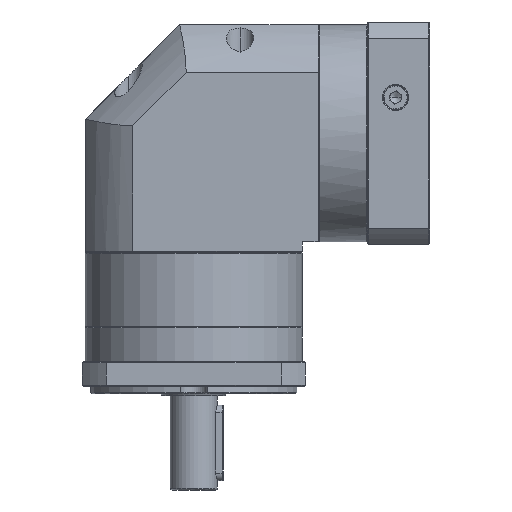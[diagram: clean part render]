
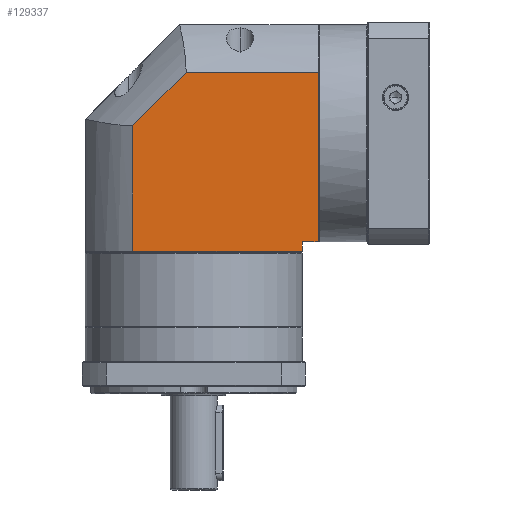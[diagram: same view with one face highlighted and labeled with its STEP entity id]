
A CAD part, front view. The second image highlights one B-rep face of the part: STEP entity #129337.
In plain terms, the highlighted planar face has unit normal (0, -1, 0).
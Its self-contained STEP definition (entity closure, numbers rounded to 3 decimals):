
#339 = CARTESIAN_POINT ( 'NONE',  ( -139.399, -32.411, 199.202 ) ) ;
#1990 = ORIENTED_EDGE ( 'NONE', *, *, #83392, .F. ) ;
#3174 = VECTOR ( 'NONE', #115756, 1000. ) ;
#5421 = VERTEX_POINT ( 'NONE', #339 ) ;
#8825 = VERTEX_POINT ( 'NONE', #81097 ) ;
#11807 = VERTEX_POINT ( 'NONE', #91712 ) ;
#12070 = LINE ( 'NONE', #27635, #110953 ) ;
#12836 = EDGE_LOOP ( 'NONE', ( #25348, #1990, #105415, #78907, #15689, #62985, #64576 ) ) ;
#15689 = ORIENTED_EDGE ( 'NONE', *, *, #123192, .F. ) ;
#21507 = VECTOR ( 'NONE', #42118, 1000. ) ;
#22671 = LINE ( 'NONE', #53141, #3174 ) ;
#25348 = ORIENTED_EDGE ( 'NONE', *, *, #130639, .F. ) ;
#27635 = CARTESIAN_POINT ( 'NONE',  ( -41.099, -32.411, 126.14 ) ) ;
#34138 = LINE ( 'NONE', #86228, #82870 ) ;
#34385 = LINE ( 'NONE', #73409, #21507 ) ;
#35380 = DIRECTION ( 'NONE',  ( 1., 0., 0. ) ) ;
#38165 = DIRECTION ( 'NONE',  ( -1., 0., 0. ) ) ;
#38460 = CARTESIAN_POINT ( 'NONE',  ( -49.499, -32.411, 137.64 ) ) ;
#42118 = DIRECTION ( 'NONE',  ( 0.707, 0., 0.707 ) ) ;
#46988 = EDGE_CURVE ( 'NONE', #131726, #8825, #12070, .T. ) ;
#47530 = DIRECTION ( 'NONE',  ( 0., 0., -1. ) ) ;
#52780 = DIRECTION ( 'NONE',  ( 0., 0., 1. ) ) ;
#53141 = CARTESIAN_POINT ( 'NONE',  ( -164.499, -32.411, 132.64 ) ) ;
#53818 = CARTESIAN_POINT ( 'NONE',  ( -164.499, -32.411, 126.14 ) ) ;
#55143 = DIRECTION ( 'NONE',  ( 1., 0., 0. ) ) ;
#62985 = ORIENTED_EDGE ( 'NONE', *, *, #81012, .F. ) ;
#63715 = VECTOR ( 'NONE', #52780, 1000. ) ;
#64576 = ORIENTED_EDGE ( 'NONE', *, *, #124144, .F. ) ;
#67168 = VECTOR ( 'NONE', #35380, 1000. ) ;
#68560 = VECTOR ( 'NONE', #38165, 1000. ) ;
#70030 = EDGE_CURVE ( 'NONE', #70690, #131726, #128952, .T. ) ;
#70690 = VERTEX_POINT ( 'NONE', #77401 ) ;
#73409 = CARTESIAN_POINT ( 'NONE',  ( -139.399, -32.411, 199.202 ) ) ;
#77401 = CARTESIAN_POINT ( 'NONE',  ( -111.061, -32.411, 227.54 ) ) ;
#78907 = ORIENTED_EDGE ( 'NONE', *, *, #70030, .F. ) ;
#80068 = LINE ( 'NONE', #94575, #63715 ) ;
#81012 = EDGE_CURVE ( 'NONE', #11807, #5421, #80068, .T. ) ;
#81097 = CARTESIAN_POINT ( 'NONE',  ( -41.099, -32.411, 137.64 ) ) ;
#82870 = VECTOR ( 'NONE', #84907, 1000. ) ;
#83392 = EDGE_CURVE ( 'NONE', #8825, #83931, #88111, .T. ) ;
#83931 = VERTEX_POINT ( 'NONE', #38460 ) ;
#83979 = CARTESIAN_POINT ( 'NONE',  ( -164.499, -32.411, 227.54 ) ) ;
#84907 = DIRECTION ( 'NONE',  ( 0., 0., -1. ) ) ;
#86228 = CARTESIAN_POINT ( 'NONE',  ( -49.499, -32.411, 126.14 ) ) ;
#88111 = LINE ( 'NONE', #100314, #68560 ) ;
#91712 = CARTESIAN_POINT ( 'NONE',  ( -139.399, -32.411, 132.64 ) ) ;
#93159 = CARTESIAN_POINT ( 'NONE',  ( -49.499, -32.411, 132.64 ) ) ;
#94575 = CARTESIAN_POINT ( 'NONE',  ( -139.399, -32.411, 126.14 ) ) ;
#94720 = VERTEX_POINT ( 'NONE', #93159 ) ;
#95931 = CARTESIAN_POINT ( 'NONE',  ( -41.099, -32.411, 227.54 ) ) ;
#100314 = CARTESIAN_POINT ( 'NONE',  ( -164.499, -32.411, 137.64 ) ) ;
#105415 = ORIENTED_EDGE ( 'NONE', *, *, #46988, .F. ) ;
#106407 = DIRECTION ( 'NONE',  ( 0., 1., 0. ) ) ;
#110953 = VECTOR ( 'NONE', #47530, 1000. ) ;
#112925 = AXIS2_PLACEMENT_3D ( 'NONE', #53818, #106407, #55143 ) ;
#115756 = DIRECTION ( 'NONE',  ( -1., 0., 0. ) ) ;
#117333 = PLANE ( 'NONE',  #112925 ) ;
#123192 = EDGE_CURVE ( 'NONE', #5421, #70690, #34385, .T. ) ;
#124144 = EDGE_CURVE ( 'NONE', #94720, #11807, #22671, .T. ) ;
#128952 = LINE ( 'NONE', #83979, #67168 ) ;
#129337 = ADVANCED_FACE ( 'NONE', ( #133230 ), #117333, .F. ) ;
#130639 = EDGE_CURVE ( 'NONE', #83931, #94720, #34138, .T. ) ;
#131726 = VERTEX_POINT ( 'NONE', #95931 ) ;
#133230 = FACE_OUTER_BOUND ( 'NONE', #12836, .T. ) ;
